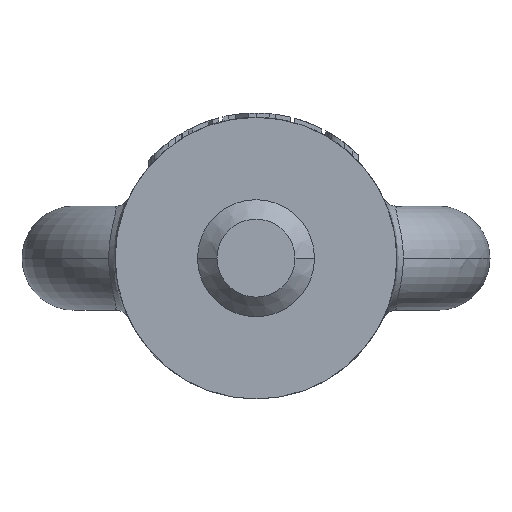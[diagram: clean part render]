
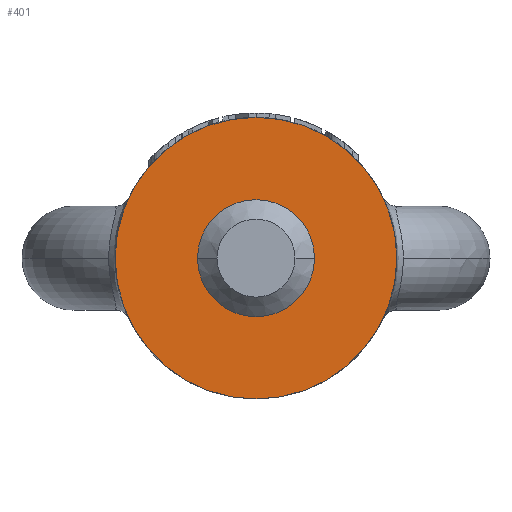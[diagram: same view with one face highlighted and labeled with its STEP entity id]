
A CAD part, front view. The second image highlights one B-rep face of the part: STEP entity #401.
In plain terms, the highlighted planar face has unit normal (0, -1, 0).
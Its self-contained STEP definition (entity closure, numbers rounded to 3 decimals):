
#401=ADVANCED_FACE('',(#807,#808),#809,.F.);
#807=FACE_OUTER_BOUND('',#1818,.T.);
#808=FACE_BOUND('',#1819,.T.);
#809=PLANE('',#1820);
#1818=EDGE_LOOP('',(#2846,#2847));
#1819=EDGE_LOOP('',(#2848,#2849));
#1820=AXIS2_PLACEMENT_3D('',#2850,#2851,#2852);
#2846=ORIENTED_EDGE('',*,*,#2901,.T.);
#2847=ORIENTED_EDGE('',*,*,#2978,.T.);
#2848=ORIENTED_EDGE('',*,*,#2920,.T.);
#2849=ORIENTED_EDGE('',*,*,#2942,.T.);
#2850=CARTESIAN_POINT('',(0.,-55.0,0.0));
#2851=DIRECTION('',(0.0,1.0,0.0));
#2852=DIRECTION('',(1.0,0.0,-0.0));
#2901=EDGE_CURVE('',#3383,#3380,#3384,.T.);
#2920=EDGE_CURVE('',#3411,#3415,#3417,.T.);
#2942=EDGE_CURVE('',#3415,#3411,#3445,.T.);
#2978=EDGE_CURVE('',#3380,#3383,#3488,.T.);
#3380=VERTEX_POINT('',#4119);
#3383=VERTEX_POINT('',#4123);
#3384=CIRCLE('',#4124,32.5);
#3411=VERTEX_POINT('',#4180);
#3415=VERTEX_POINT('',#4185);
#3417=CIRCLE('',#4188,11.5);
#3445=CIRCLE('',#4222,11.5);
#3488=CIRCLE('',#4366,32.5);
#4119=CARTESIAN_POINT('',(32.5,-55.0,0.));
#4123=CARTESIAN_POINT('',(-32.5,-55.0,0.));
#4124=AXIS2_PLACEMENT_3D('',#5610,#5611,#5612);
#4180=CARTESIAN_POINT('',(-11.5,-55.0,0.0));
#4185=CARTESIAN_POINT('',(11.5,-55.0,0.));
#4188=AXIS2_PLACEMENT_3D('',#5640,#5641,#5642);
#4222=AXIS2_PLACEMENT_3D('',#5670,#5671,#5672);
#4366=AXIS2_PLACEMENT_3D('',#5706,#5707,#5708);
#5610=CARTESIAN_POINT('',(0.0,-55.0,0.0));
#5611=DIRECTION('',(0.0,-1.0,0.0));
#5612=DIRECTION('',(1.0,0.0,0.0));
#5640=CARTESIAN_POINT('',(0.0,-55.0,0.0));
#5641=DIRECTION('',(0.0,1.0,0.0));
#5642=DIRECTION('',(-1.0,0.0,0.0));
#5670=CARTESIAN_POINT('',(0.0,-55.0,0.0));
#5671=DIRECTION('',(0.0,1.0,0.0));
#5672=DIRECTION('',(-1.0,0.0,0.0));
#5706=CARTESIAN_POINT('',(0.0,-55.0,0.0));
#5707=DIRECTION('',(0.0,-1.0,0.0));
#5708=DIRECTION('',(1.0,0.0,0.0));
